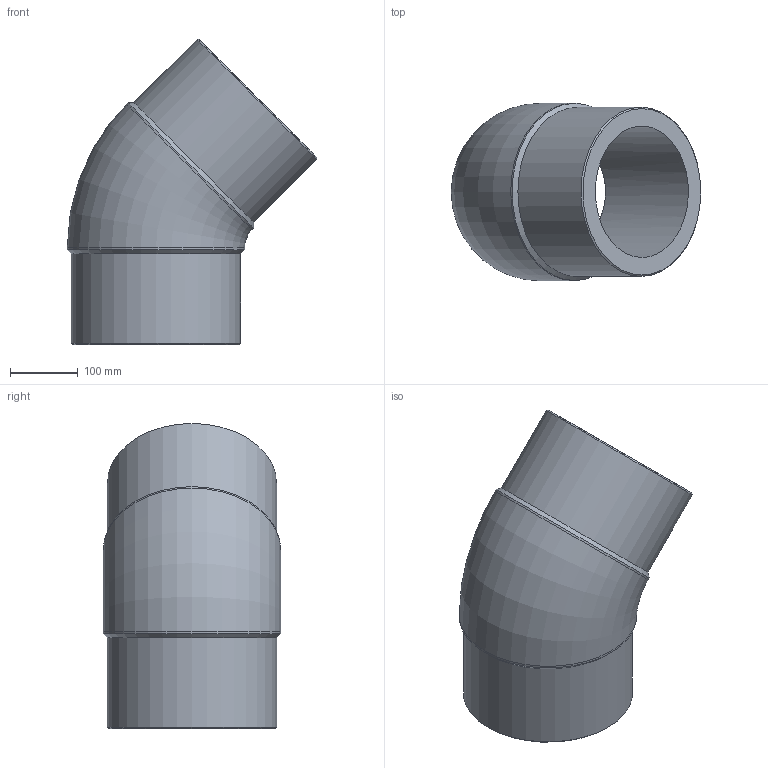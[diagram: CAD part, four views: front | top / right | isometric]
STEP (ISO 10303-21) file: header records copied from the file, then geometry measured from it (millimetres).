
FILE_DESCRIPTION(/* description */ ('Unknown'),/* implementation_level */ '2;1');
FILE_NAME(/* name */ 'G4P250G',/* time_stamp */ '2022-01-20T17:27:34+01:00',/* author */ ('Unknown'),/* organization */ ('Unknown'),/* preprocessor_version */ 'ST-DEVELOPER v18.1',/* originating_system */ 'Solid Edge',/* authorisation */ 'Unknown');
FILE_SCHEMA (('AUTOMOTIVE_DESIGN {1 0 10303 214 3 1 1}'));
Length unit declared in the file: millimetre
Products named in the file (1): G4P250G
Bounding box: 368.59 x 262 x 450.59 mm (x, y, z)
Volume: 8884335.9 mm3; surface area: 631048.3 mm2
Topology: 1 solids, 1 shells, 14 faces, 34 edges, 22 vertices
Faces by surface type: cylinder 6, cone 4, plane 2, torus 2
Full cylindrical faces by diameter (mm): 194.2 x2, 250 x2, 262 x2
Entity records: 370 total; most frequent: CARTESIAN_POINT 70, DIRECTION 60, ORIENTED_EDGE 38, AXIS2_PLACEMENT_3D 30, EDGE_LOOP 27, FACE_BOUND 27, EDGE_CURVE 19, VERTEX_POINT 18
